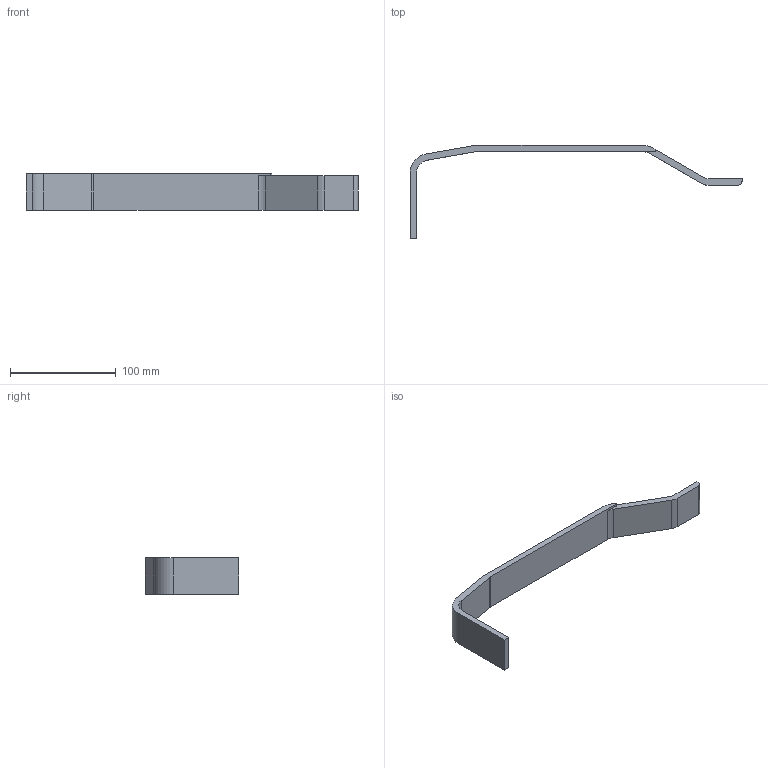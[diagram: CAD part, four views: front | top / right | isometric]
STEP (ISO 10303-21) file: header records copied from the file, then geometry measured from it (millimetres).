
FILE_DESCRIPTION (( 'STEP AP214' ), '1' );
FILE_NAME ('YYDK-500-0011 油管保护罩2（500T）-3.step', '2024-11-20T05:47:15', ( '' ), ( '' ), 'SwSTEP 2.0', 'SolidWorks 2020', '' );
FILE_SCHEMA (( 'AUTOMOTIVE_DESIGN' ));
Length unit declared in the file: millimetre
Products named in the file (1): YYDK-500-0011 油管保护罩2（500T）-3
Bounding box: 314.6 x 88.72 x 35.05 mm (x, y, z)
Volume: 81013.1 mm3; surface area: 32122.6 mm2
Topology: 1 solids, 1 shells, 25 faces, 69 edges, 46 vertices
Faces by surface type: plane 15, cylinder 10
Entity records: 837 total; most frequent: DIRECTION 141, CARTESIAN_POINT 141, ORIENTED_EDGE 138, EDGE_CURVE 69, VECTOR 49, LINE 49, AXIS2_PLACEMENT_3D 46, VERTEX_POINT 46
